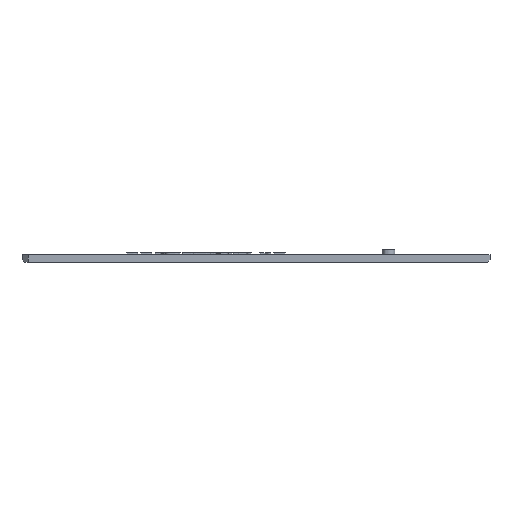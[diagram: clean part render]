
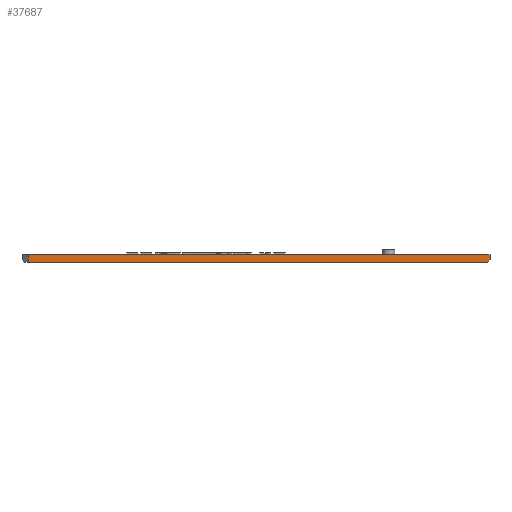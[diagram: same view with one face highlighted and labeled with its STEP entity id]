
A CAD part, front view. The second image highlights one B-rep face of the part: STEP entity #37687.
In plain terms, the highlighted planar face has unit normal (0, -1, 0).
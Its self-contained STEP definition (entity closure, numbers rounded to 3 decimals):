
#44 = PLANE('',#45);
#45 = AXIS2_PLACEMENT_3D('',#46,#47,#48);
#46 = CARTESIAN_POINT('',(1.,-49.75,0.));
#47 = DIRECTION('',(-0.707,-0.707,0.));
#48 = DIRECTION('',(-0.,-0.,-1.));
#126 = PLANE('',#127);
#127 = AXIS2_PLACEMENT_3D('',#128,#129,#130);
#128 = CARTESIAN_POINT('',(0.,-50.75,2.4));
#129 = DIRECTION('',(0.,0.,1.));
#130 = DIRECTION('',(1.,0.,-0.));
#144 = VERTEX_POINT('',#145);
#145 = CARTESIAN_POINT('',(2.,-50.75,0.));
#159 = PLANE('',#160);
#160 = AXIS2_PLACEMENT_3D('',#161,#162,#163);
#161 = CARTESIAN_POINT('',(0.,-50.75,0.));
#162 = DIRECTION('',(0.,0.,1.));
#163 = DIRECTION('',(1.,0.,-0.));
#194 = VERTEX_POINT('',#195);
#195 = CARTESIAN_POINT('',(2.,-50.75,2.4));
#216 = EDGE_CURVE('',#144,#194,#217,.T.);
#217 = SURFACE_CURVE('',#218,(#222,#229),.PCURVE_S1.);
#218 = LINE('',#219,#220);
#219 = CARTESIAN_POINT('',(2.,-50.75,0.));
#220 = VECTOR('',#221,1.);
#221 = DIRECTION('',(0.,0.,1.));
#222 = PCURVE('',#44,#223);
#223 = DEFINITIONAL_REPRESENTATION('',(#224),#228);
#224 = LINE('',#225,#226);
#225 = CARTESIAN_POINT('',(-0.,1.414));
#226 = VECTOR('',#227,1.);
#227 = DIRECTION('',(-1.,0.));
#228 = ( GEOMETRIC_REPRESENTATION_CONTEXT(2) 
PARAMETRIC_REPRESENTATION_CONTEXT() REPRESENTATION_CONTEXT('2D SPACE',''
  ) );
#229 = PCURVE('',#230,#235);
#230 = PLANE('',#231);
#231 = AXIS2_PLACEMENT_3D('',#232,#233,#234);
#232 = CARTESIAN_POINT('',(0.,-50.75,0.));
#233 = DIRECTION('',(-0.,1.,0.));
#234 = DIRECTION('',(0.,0.,1.));
#235 = DEFINITIONAL_REPRESENTATION('',(#236),#240);
#236 = LINE('',#237,#238);
#237 = CARTESIAN_POINT('',(0.,2.));
#238 = VECTOR('',#239,1.);
#239 = DIRECTION('',(1.,0.));
#240 = ( GEOMETRIC_REPRESENTATION_CONTEXT(2) 
PARAMETRIC_REPRESENTATION_CONTEXT() REPRESENTATION_CONTEXT('2D SPACE',''
  ) );
#296 = EDGE_CURVE('',#194,#297,#299,.T.);
#297 = VERTEX_POINT('',#298);
#298 = CARTESIAN_POINT('',(147.7,-50.75,2.4));
#299 = SURFACE_CURVE('',#300,(#304,#311),.PCURVE_S1.);
#300 = LINE('',#301,#302);
#301 = CARTESIAN_POINT('',(0.,-50.75,2.4));
#302 = VECTOR('',#303,1.);
#303 = DIRECTION('',(1.,0.,-0.));
#304 = PCURVE('',#126,#305);
#305 = DEFINITIONAL_REPRESENTATION('',(#306),#310);
#306 = LINE('',#307,#308);
#307 = CARTESIAN_POINT('',(0.,0.));
#308 = VECTOR('',#309,1.);
#309 = DIRECTION('',(1.,0.));
#310 = ( GEOMETRIC_REPRESENTATION_CONTEXT(2) 
PARAMETRIC_REPRESENTATION_CONTEXT() REPRESENTATION_CONTEXT('2D SPACE',''
  ) );
#311 = PCURVE('',#230,#312);
#312 = DEFINITIONAL_REPRESENTATION('',(#313),#317);
#313 = LINE('',#314,#315);
#314 = CARTESIAN_POINT('',(2.4,0.));
#315 = VECTOR('',#316,1.);
#316 = DIRECTION('',(0.,1.));
#317 = ( GEOMETRIC_REPRESENTATION_CONTEXT(2) 
PARAMETRIC_REPRESENTATION_CONTEXT() REPRESENTATION_CONTEXT('2D SPACE',''
  ) );
#335 = PLANE('',#336);
#336 = AXIS2_PLACEMENT_3D('',#337,#338,#339);
#337 = CARTESIAN_POINT('',(147.7,-50.75,0.));
#338 = DIRECTION('',(1.,0.,-0.));
#339 = DIRECTION('',(0.,0.,1.));
#37509 = EDGE_CURVE('',#144,#37510,#37512,.T.);
#37510 = VERTEX_POINT('',#37511);
#37511 = CARTESIAN_POINT('',(146.9,-50.75,0.));
#37512 = SURFACE_CURVE('',#37513,(#37517,#37524),.PCURVE_S1.);
#37513 = LINE('',#37514,#37515);
#37514 = CARTESIAN_POINT('',(0.,-50.75,0.));
#37515 = VECTOR('',#37516,1.);
#37516 = DIRECTION('',(1.,0.,-0.));
#37517 = PCURVE('',#159,#37518);
#37518 = DEFINITIONAL_REPRESENTATION('',(#37519),#37523);
#37519 = LINE('',#37520,#37521);
#37520 = CARTESIAN_POINT('',(0.,0.));
#37521 = VECTOR('',#37522,1.);
#37522 = DIRECTION('',(1.,0.));
#37523 = ( GEOMETRIC_REPRESENTATION_CONTEXT(2) 
PARAMETRIC_REPRESENTATION_CONTEXT() REPRESENTATION_CONTEXT('2D SPACE',''
  ) );
#37524 = PCURVE('',#230,#37525);
#37525 = DEFINITIONAL_REPRESENTATION('',(#37526),#37530);
#37526 = LINE('',#37527,#37528);
#37527 = CARTESIAN_POINT('',(0.,0.));
#37528 = VECTOR('',#37529,1.);
#37529 = DIRECTION('',(0.,1.));
#37530 = ( GEOMETRIC_REPRESENTATION_CONTEXT(2) 
PARAMETRIC_REPRESENTATION_CONTEXT() REPRESENTATION_CONTEXT('2D SPACE',''
  ) );
#37548 = PLANE('',#37549);
#37549 = AXIS2_PLACEMENT_3D('',#37550,#37551,#37552);
#37550 = CARTESIAN_POINT('',(147.3,-50.75,0.4));
#37551 = DIRECTION('',(-0.707,0.,0.707));
#37552 = DIRECTION('',(-0.,-1.,0.));
#37687 = ADVANCED_FACE('',(#37688),#230,.F.);
#37688 = FACE_BOUND('',#37689,.F.);
#37689 = EDGE_LOOP('',(#37690,#37691,#37692,#37693,#37716));
#37690 = ORIENTED_EDGE('',*,*,#37509,.F.);
#37691 = ORIENTED_EDGE('',*,*,#216,.T.);
#37692 = ORIENTED_EDGE('',*,*,#296,.T.);
#37693 = ORIENTED_EDGE('',*,*,#37694,.F.);
#37694 = EDGE_CURVE('',#37695,#297,#37697,.T.);
#37695 = VERTEX_POINT('',#37696);
#37696 = CARTESIAN_POINT('',(147.7,-50.75,0.8));
#37697 = SURFACE_CURVE('',#37698,(#37702,#37709),.PCURVE_S1.);
#37698 = LINE('',#37699,#37700);
#37699 = CARTESIAN_POINT('',(147.7,-50.75,0.));
#37700 = VECTOR('',#37701,1.);
#37701 = DIRECTION('',(0.,0.,1.));
#37702 = PCURVE('',#230,#37703);
#37703 = DEFINITIONAL_REPRESENTATION('',(#37704),#37708);
#37704 = LINE('',#37705,#37706);
#37705 = CARTESIAN_POINT('',(0.,147.7));
#37706 = VECTOR('',#37707,1.);
#37707 = DIRECTION('',(1.,0.));
#37708 = ( GEOMETRIC_REPRESENTATION_CONTEXT(2) 
PARAMETRIC_REPRESENTATION_CONTEXT() REPRESENTATION_CONTEXT('2D SPACE',''
  ) );
#37709 = PCURVE('',#335,#37710);
#37710 = DEFINITIONAL_REPRESENTATION('',(#37711),#37715);
#37711 = LINE('',#37712,#37713);
#37712 = CARTESIAN_POINT('',(0.,0.));
#37713 = VECTOR('',#37714,1.);
#37714 = DIRECTION('',(1.,0.));
#37715 = ( GEOMETRIC_REPRESENTATION_CONTEXT(2) 
PARAMETRIC_REPRESENTATION_CONTEXT() REPRESENTATION_CONTEXT('2D SPACE',''
  ) );
#37716 = ORIENTED_EDGE('',*,*,#37717,.F.);
#37717 = EDGE_CURVE('',#37510,#37695,#37718,.T.);
#37718 = SURFACE_CURVE('',#37719,(#37723,#37730),.PCURVE_S1.);
#37719 = LINE('',#37720,#37721);
#37720 = CARTESIAN_POINT('',(110.375,-50.75,-36.525));
#37721 = VECTOR('',#37722,1.);
#37722 = DIRECTION('',(0.707,0.,0.707));
#37723 = PCURVE('',#230,#37724);
#37724 = DEFINITIONAL_REPRESENTATION('',(#37725),#37729);
#37725 = LINE('',#37726,#37727);
#37726 = CARTESIAN_POINT('',(-36.525,110.375));
#37727 = VECTOR('',#37728,1.);
#37728 = DIRECTION('',(0.707,0.707));
#37729 = ( GEOMETRIC_REPRESENTATION_CONTEXT(2) 
PARAMETRIC_REPRESENTATION_CONTEXT() REPRESENTATION_CONTEXT('2D SPACE',''
  ) );
#37730 = PCURVE('',#37548,#37731);
#37731 = DEFINITIONAL_REPRESENTATION('',(#37732),#37736);
#37732 = LINE('',#37733,#37734);
#37733 = CARTESIAN_POINT('',(-0.,-52.22));
#37734 = VECTOR('',#37735,1.);
#37735 = DIRECTION('',(-0.,1.));
#37736 = ( GEOMETRIC_REPRESENTATION_CONTEXT(2) 
PARAMETRIC_REPRESENTATION_CONTEXT() REPRESENTATION_CONTEXT('2D SPACE',''
  ) );
